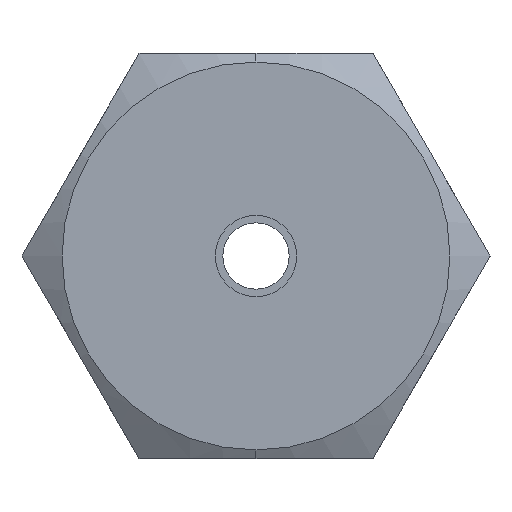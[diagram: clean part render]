
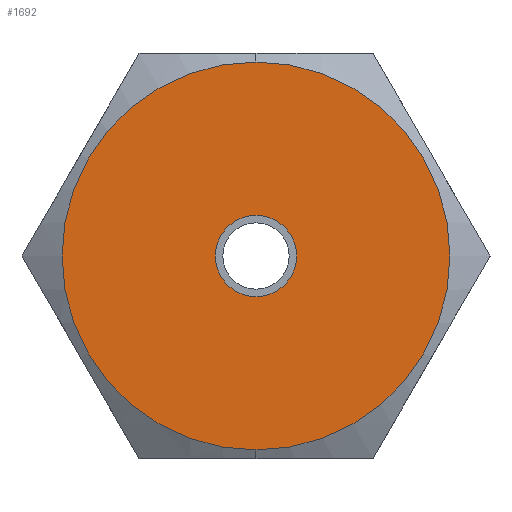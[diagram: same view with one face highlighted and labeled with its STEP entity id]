
A CAD part, left-side view. The second image highlights one B-rep face of the part: STEP entity #1692.
In plain terms, the highlighted planar face has unit normal (-1, 0, 0).
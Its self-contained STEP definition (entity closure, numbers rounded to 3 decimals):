
#83 = CARTESIAN_POINT ( 'NONE',  ( -11.1, 0., 0.795 ) ) ;
#84 = DIRECTION ( 'NONE',  ( 0., 0., 1. ) ) ;
#85 = DIRECTION ( 'NONE',  ( -1., 0., 0. ) ) ;
#86 = CARTESIAN_POINT ( 'NONE',  ( -11.1, 0., 0. ) ) ;
#87 = AXIS2_PLACEMENT_3D ( 'NONE', #86, #85, #84 ) ;
#88 = CIRCLE ( 'NONE', #87, 0.795 ) ;
#89 = CARTESIAN_POINT ( 'NONE',  ( -11.1, 0., -0.795 ) ) ;
#747 = DIRECTION ( 'NONE',  ( 0., 0., 1. ) ) ;
#748 = DIRECTION ( 'NONE',  ( -1., 0., 0. ) ) ;
#749 = CARTESIAN_POINT ( 'NONE',  ( -11.1, 0., 0. ) ) ;
#750 = AXIS2_PLACEMENT_3D ( 'NONE', #749, #748, #747 ) ;
#751 = CIRCLE ( 'NONE', #750, 3.8 ) ;
#752 = DIRECTION ( 'NONE',  ( 0., 0., 1. ) ) ;
#753 = DIRECTION ( 'NONE',  ( -1., 0., 0. ) ) ;
#754 = CARTESIAN_POINT ( 'NONE',  ( -11.1, 0., 0. ) ) ;
#755 = AXIS2_PLACEMENT_3D ( 'NONE', #754, #753, #752 ) ;
#756 = DIRECTION ( 'NONE',  ( 0., 0., 1. ) ) ;
#757 = DIRECTION ( 'NONE',  ( -1., 0., 0. ) ) ;
#758 = AXIS2_PLACEMENT_3D ( 'NONE', #760, #757, #756 ) ;
#759 = CIRCLE ( 'NONE', #755, 0.795 ) ;
#760 = CARTESIAN_POINT ( 'NONE',  ( -11.1, 4.584, 0. ) ) ;
#761 = PLANE ( 'NONE',  #758 ) ;
#762 = FACE_OUTER_BOUND ( 'NONE', #1697, .T. ) ;
#763 = FACE_BOUND ( 'NONE', #1693, .T. ) ;
#1028 = VERTEX_POINT ( 'NONE', #1409 ) ;
#1030 = EDGE_CURVE ( 'NONE', #1031, #1028, #1408, .T. ) ;
#1031 = VERTEX_POINT ( 'NONE', #1403 ) ;
#1161 = VERTEX_POINT ( 'NONE', #89 ) ;
#1163 = EDGE_CURVE ( 'NONE', #1161, #1164, #88, .T. ) ;
#1164 = VERTEX_POINT ( 'NONE', #83 ) ;
#1403 = CARTESIAN_POINT ( 'NONE',  ( -11.1, 0., 3.8 ) ) ;
#1404 = DIRECTION ( 'NONE',  ( 0., 0., 1. ) ) ;
#1405 = DIRECTION ( 'NONE',  ( -1., 0., 0. ) ) ;
#1406 = CARTESIAN_POINT ( 'NONE',  ( -11.1, 0., 0. ) ) ;
#1407 = AXIS2_PLACEMENT_3D ( 'NONE', #1406, #1405, #1404 ) ;
#1408 = CIRCLE ( 'NONE', #1407, 3.8 ) ;
#1409 = CARTESIAN_POINT ( 'NONE',  ( -11.1, 0., -3.8 ) ) ;
#1692 = ADVANCED_FACE ( 'NONE', ( #763, #762 ), #761, .T. ) ;
#1693 = EDGE_LOOP ( 'NONE', ( #1694, #1696 ) ) ;
#1694 = ORIENTED_EDGE ( 'NONE', *, *, #1695, .F. ) ;
#1695 = EDGE_CURVE ( 'NONE', #1164, #1161, #759, .T. ) ;
#1696 = ORIENTED_EDGE ( 'NONE', *, *, #1163, .F. ) ;
#1697 = EDGE_LOOP ( 'NONE', ( #1698, #1699 ) ) ;
#1698 = ORIENTED_EDGE ( 'NONE', *, *, #1030, .T. ) ;
#1699 = ORIENTED_EDGE ( 'NONE', *, *, #1700, .T. ) ;
#1700 = EDGE_CURVE ( 'NONE', #1028, #1031, #751, .T. ) ;
